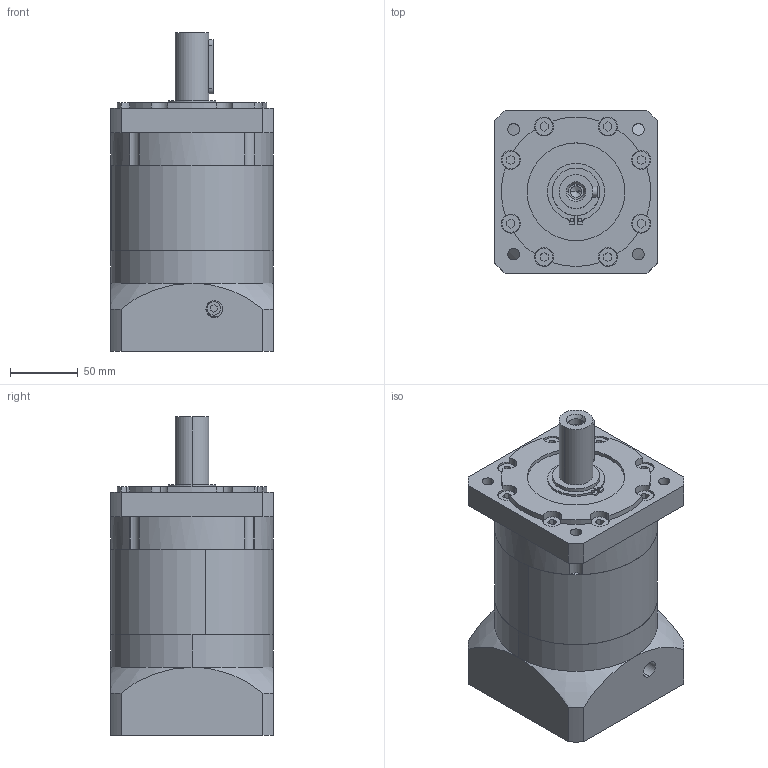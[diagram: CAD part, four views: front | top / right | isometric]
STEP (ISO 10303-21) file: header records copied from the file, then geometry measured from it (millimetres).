
FILE_DESCRIPTION (( 'STEP AP203' ), '1' );
FILE_NAME ('PRF120-L2.STEP', '2021-06-02T10:05:09', ( 'su' ), ( 'Microsoft' ), 'SwSTEP 2.0', 'SolidWorks 2014', '' );
FILE_SCHEMA (( 'CONFIG_CONTROL_DESIGN' ));
Length unit declared in the file: millimetre
Products named in the file (8): PRF120 奻屳唳-25; PRF120 狟屳唳-19; 粣創-6007 40x68x15; 邧埴瑩 8x7x40; 囀鞠褒蹟佪 M6x20; PRF120 蟀諉啣-95-M8-130-LR57; PRF120-L2; PRF120 內齿圈-优化_二级内齿圈
Assembly tree (7 placements, depth 2):
  PRF120-L2
    囀鞠褒蹟佪 M6x20
    PRF120 蟀諉啣-95-M8-130-LR57
    PRF120 內齿圈-优化_二级内齿圈
    PRF120 奻屳唳-25
    PRF120 狟屳唳-19
    粣創-6007 40x68x15
    邧埴瑩 8x7x40
Bounding box: 120 x 120 x 234.5 mm (x, y, z)
Volume: 2050713.8 mm3; surface area: 246060.4 mm2
Topology: 7 solids, 15 shells, 573 faces, 1542 edges, 1011 vertices
Faces by surface type: cylinder 208, plane 203, sphere 96, torus 52, cone 14
Entity records: 22716 total; most frequent: CARTESIAN_POINT 7365, DIRECTION 3082, ORIENTED_EDGE 3064, EDGE_CURVE 1532, AXIS2_PLACEMENT_3D 1298, VERTEX_POINT 1011, CIRCLE 715, EDGE_LOOP 671
